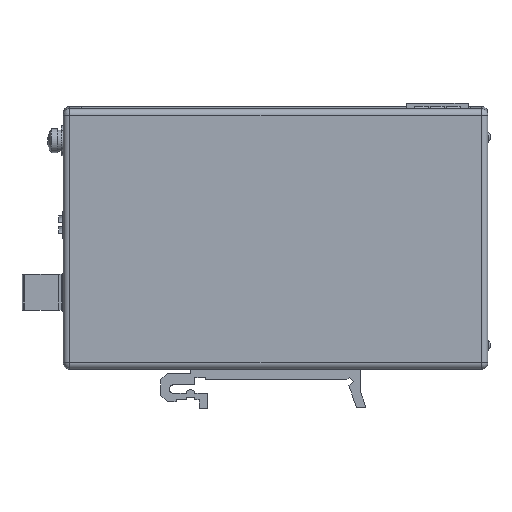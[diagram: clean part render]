
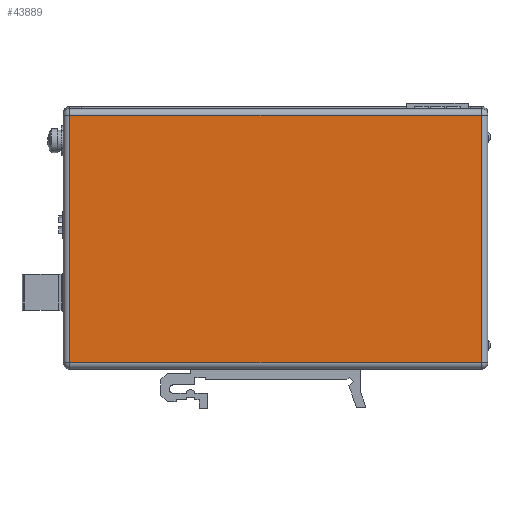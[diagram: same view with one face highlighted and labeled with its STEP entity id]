
A CAD part, front view. The second image highlights one B-rep face of the part: STEP entity #43889.
In plain terms, the highlighted planar face has unit normal (0, -1, 0).
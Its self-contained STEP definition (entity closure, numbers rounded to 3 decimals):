
#37229=DIRECTION('',(0.,0.,-1.));
#37230=VECTOR('',#37229,58.315);
#37231=CARTESIAN_POINT('',(-48.5,0.,29.015));
#37232=LINE('',#37231,#37230);
#37233=DIRECTION('',(-1.,0.,0.));
#37234=VECTOR('',#37233,97.);
#37235=CARTESIAN_POINT('',(48.5,0.,29.015));
#37236=LINE('',#37235,#37234);
#37237=DIRECTION('',(0.,0.,1.));
#37238=VECTOR('',#37237,58.315);
#37239=CARTESIAN_POINT('',(48.5,0.,-29.3));
#37240=LINE('',#37239,#37238);
#37245=DIRECTION('',(1.,0.,0.));
#37246=VECTOR('',#37245,97.);
#37247=CARTESIAN_POINT('',(-48.5,0.,-29.3));
#37248=LINE('',#37247,#37246);
#42558=CARTESIAN_POINT('',(-48.5,0.,29.015));
#42559=CARTESIAN_POINT('',(-48.5,0.,-29.3));
#42560=VERTEX_POINT('',#42558);
#42561=VERTEX_POINT('',#42559);
#42562=CARTESIAN_POINT('',(48.5,0.,-29.3));
#42563=CARTESIAN_POINT('',(48.5,0.,29.015));
#42564=VERTEX_POINT('',#42562);
#42565=VERTEX_POINT('',#42563);
#43874=CARTESIAN_POINT('',(0.,0.,0.));
#43875=DIRECTION('',(0.,1.,0.));
#43876=DIRECTION('',(0.,0.,-1.));
#43877=AXIS2_PLACEMENT_3D('',#43874,#43875,#43876);
#43878=PLANE('',#43877);
#43880=ORIENTED_EDGE('',*,*,#43879,.F.);
#43882=ORIENTED_EDGE('',*,*,#43881,.F.);
#43884=ORIENTED_EDGE('',*,*,#43883,.F.);
#43886=ORIENTED_EDGE('',*,*,#43885,.F.);
#43887=EDGE_LOOP('',(#43880,#43882,#43884,#43886));
#43888=FACE_OUTER_BOUND('',#43887,.F.);
#43889=ADVANCED_FACE('',(#43888),#43878,.F.);
#43879=EDGE_CURVE('',#42561,#42564,#37248,.T.);
#43881=EDGE_CURVE('',#42560,#42561,#37232,.T.);
#43883=EDGE_CURVE('',#42565,#42560,#37236,.T.);
#43885=EDGE_CURVE('',#42564,#42565,#37240,.T.);
